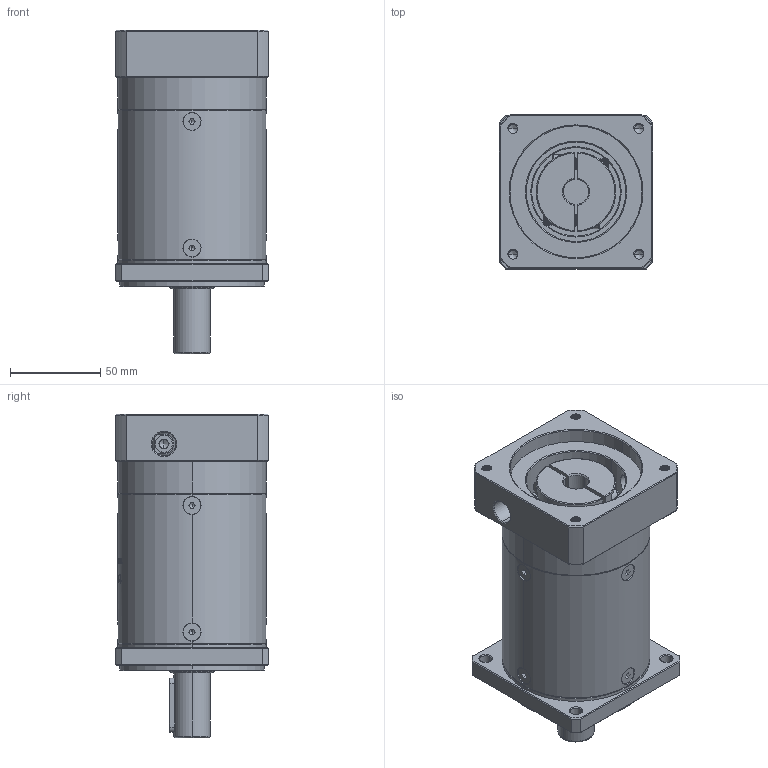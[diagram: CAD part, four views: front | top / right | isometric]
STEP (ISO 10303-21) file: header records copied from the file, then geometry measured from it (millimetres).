
FILE_DESCRIPTION (( 'STEP AP214' ), '1' );
FILE_NAME ('ZF80-D20-L3-14-73-69.5X69.5-M6.step', '2022-05-08T09:15:50', ( '' ), ( 'Microsoft' ), 'SwSTEP 2.0', 'SolidWorks 2016', '' );
FILE_SCHEMA (( 'AUTOMOTIVE_DESIGN' ));
Length unit declared in the file: millimetre
Products named in the file (1): ZF80-D20-L3-14-73-69.5X69.5-M6
Bounding box: 85 x 85 x 179 mm (x, y, z)
Volume: 749159.1 mm3; surface area: 99041.1 mm2
Topology: 13 solids, 13 shells, 1980 faces, 5117 edges, 3231 vertices
Faces by surface type: plane 896, cylinder 408, cone 339, bspline 320, torus 17
Entity records: 107704 total; most frequent: CARTESIAN_POINT 41272, ORIENTED_EDGE 10174, DIRECTION 8021, EDGE_CURVE 5087, VERTEX_POINT 3231, VECTOR 2763, LINE 2763, AXIS2_PLACEMENT_3D 2629
